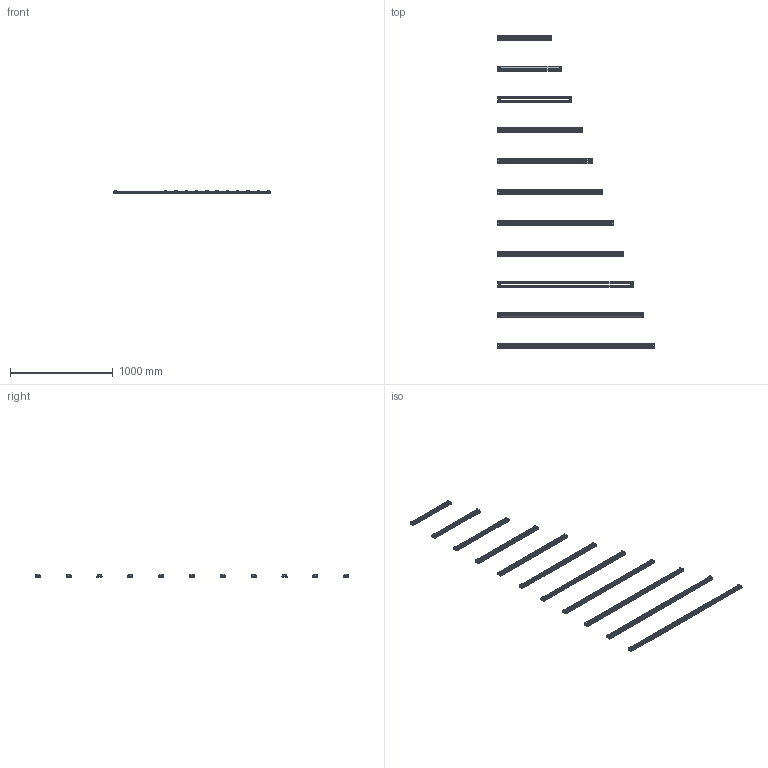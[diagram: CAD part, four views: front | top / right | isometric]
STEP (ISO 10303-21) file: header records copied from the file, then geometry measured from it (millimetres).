
FILE_DESCRIPTION(/* description */ (''),/* implementation_level */ '2;1');
FILE_NAME(/* name */ 'C:/Users/elena/OneDrive/Allegati di posta elettronica/Desktop/Piko double 02B.step',/* time_stamp */ '2020-05-20T17:23:44+02:00',/* author */ (''),/* organization */ (''),/* preprocessor_version */ 'ST-DEVELOPER v18.1',/* originating_system */ 'Autodesk Translation Framework v9.3.0.1241',/* authorisation */ '');
FILE_SCHEMA (('AUTOMOTIVE_DESIGN { 1 0 10303 214 3 1 1 }'));
Products named in the file (2): Piko double 02B; 02B
Assembly tree (1 placements, depth 2):
  Piko double 02B
    02B
Bounding box: 1520 x 3049.8 x 32.74 mm (x, y, z)
Volume: 5484969.9 mm3; surface area: 2680260.8 mm2
Topology: 110 solids, 110 shells, 3504 faces, 9126 edges, 6062 vertices
Faces by surface type: cylinder 1870, plane 1524, bspline 66, cone 44
Full cylindrical faces by diameter (mm): 2.5 x88, 3 x44, 6 x22, 7 x44, 19.8 x44
Entity records: 109399 total; most frequent: CARTESIAN_POINT 19817, DIRECTION 19660, ORIENTED_EDGE 18252, EDGE_CURVE 9126, AXIS2_PLACEMENT_3D 7225, VERTEX_POINT 6062, LINE 5210, VECTOR 5210
